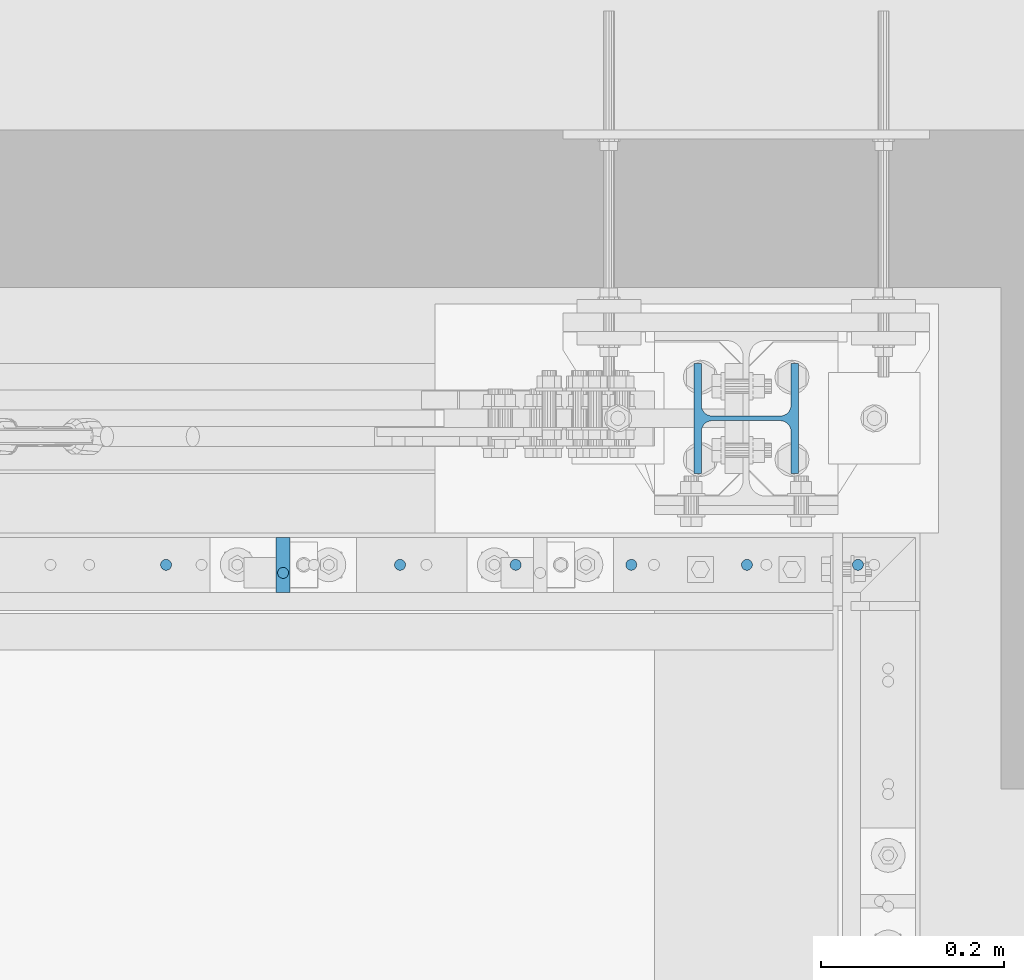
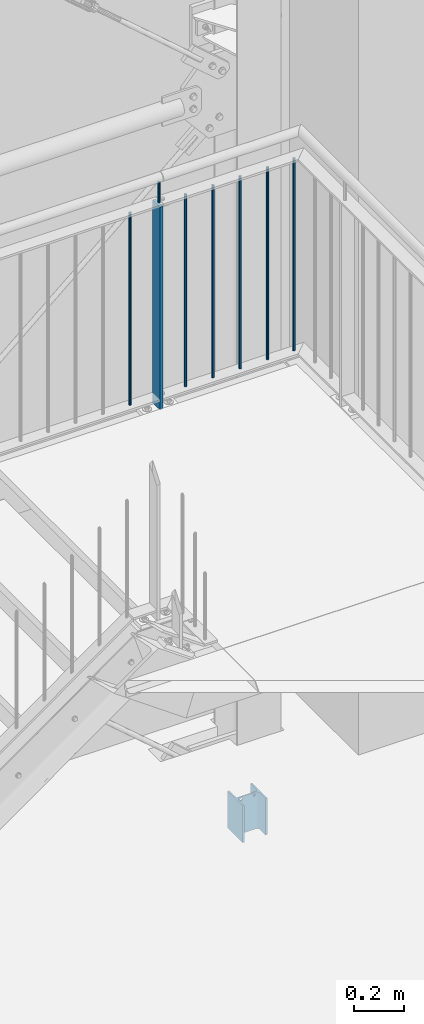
# One storey, part 108 of 821: 9 columns, 2 openings.
"""IFC2X3 building model written with IfcOpenShell, lengths in millimetres."""

from ifc_helpers import new_model, entity, si_unit, converted_unit, frame, origin, origin_with_axes, origin_2d, origin_2d_with_axis, place, context, project, spatial, rectangle, circle, i_section, extrude, clip, halfspace, material, element, save


model = new_model("IFC2X3")

# Units and contexts
model_context = context("Model", 3, precision=1e-09, world=origin_with_axes())
ifc_project = project(units=[si_unit("LENGTHUNIT", "METRE", prefix="MILLI"), si_unit("AREAUNIT", "SQUARE_METRE"), si_unit("VOLUMEUNIT", "CUBIC_METRE"), converted_unit("PLANEANGLEUNIT", "DEGREE", entity("IfcPlaneAngleMeasure", 0.01745329), si_unit("PLANEANGLEUNIT", "RADIAN"), dimensions=[0, 0, 0, 0, 0, 0, 0])], contexts=[model_context])

# Site, building, storey
site_placement = place(None, origin_with_axes())
site = spatial("IfcSite", under=ifc_project, at=site_placement, Name="Cnopf'sche Kinderklinik", CompositionType="ELEMENT")
building_placement = place(site_placement, origin_with_axes())
building = spatial("IfcBuilding", under=site, at=building_placement, Name="Struktur 1", CompositionType="ELEMENT")
storey_placement = place(building_placement, origin_with_axes())
storey = spatial("IfcBuildingStorey", under=building, at=storey_placement, Name="Default Storey", CompositionType="ELEMENT", Elevation=0.0)

# Column, openings
ifc_material = material(Name="S235JR")
column_1_placement = place(None, frame((8866.713402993, 7516.736971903, 30.0), z_axis=(0.0, 0.0, 1.0), x_axis=(0.0, 1.0, 0.0)))
column_1 = element("IfcColumn", 1, at=column_1_placement, inside=storey, material=ifc_material, Name="-", ObjectType="-", context=model_context, shape_type="SweptSolid", body=[
    extrude(i_section(OverallWidth=120.0, OverallDepth=114.0, WebThickness=5.0, FlangeThickness=8.0, FilletRadius=12.0, at=origin_2d()), origin(), (0.0, 0.0, -1.0), 180.0),
])
opening_1_placement = place(column_1_placement, frame((-3.0, 30.0, -12.0), z_axis=(1.0, 0.0, 0.0), x_axis=(0.0, 0.0, -1.0)))
element("IfcOpeningElement", 2, at=opening_1_placement, cuts=column_1, ObjectType="Opening", context=model_context, shape_type="SweptSolid", body=[
    extrude(circle(Radius=6.001, at=origin_2d_with_axis()), origin(), (0.0, 0.0, 1.0), 6.0),
])
opening_2_placement = place(column_1_placement, frame((-3.0, -30.0, -12.0), z_axis=(1.0, 0.0, 0.0), x_axis=(0.0, 0.0, -1.0)))
element("IfcOpeningElement", 3, at=opening_2_placement, cuts=column_1, ObjectType="Opening", context=model_context, shape_type="SweptSolid", body=[
    extrude(circle(Radius=6.001, at=origin_2d_with_axis()), origin(), (0.0, 0.0, 1.0), 6.0),
])

# Columns
column_2_placement = place(None, frame((8360.944225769, 7356.736971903, 3220.775923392), z_axis=(0.0, 0.0, 1.0), x_axis=(1.0, 0.0, 0.0)))
element("IfcColumn", 4, at=column_2_placement, inside=storey, material=ifc_material, Name="Railing_Post_Landing#3", ObjectType="Railing_Post_Landing#3", context=model_context, shape_type="Clipping", body=[
    clip(clip(extrude(rectangle(XDim=15.0, YDim=60.0, at=origin_2d()), origin(), (0.0, 0.0, -1.0), 1070.646584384), halfspace(frame((-8360.944225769, -7356.736971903, -1019.722292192), z_axis=(0.0, 0.0, 1.0), x_axis=(1.0, 0.0, 0.0)), True)), halfspace(frame((-8360.944225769, -7356.736971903, -30.924292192), z_axis=(0.0, 0.0, -1.0), x_axis=(-1.0, 0.0, 0.0)), True)),
])
column_3_placement = place(None, frame((8233.184225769, 7356.736971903, 3203.337912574), z_axis=(0.0, 0.0, 1.0), x_axis=(1.0, 0.0, 0.0)))
element("IfcColumn", 5, at=column_3_placement, inside=storey, material=ifc_material, Name="Railing_Picket_Landing#20", ObjectType="Railing_Picket_Landing#20", context=model_context, shape_type="Clipping", body=[
    clip(clip(extrude(circle(Radius=6.0, at=origin_2d()), origin(), (0.0, 0.0, -1.0), 965.770562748), halfspace(frame((-8233.184225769, -7356.736971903, -13.486281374), z_axis=(0.0, 0.0, -1.0), x_axis=(-1.0, 0.0, 0.0)), True)), halfspace(frame((-8233.184225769, -7356.736971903, -952.284281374), z_axis=(0.0, 0.0, 1.0), x_axis=(1.0, 0.0, 0.0)), True)),
])
column_4_placement = place(None, frame((8488.704225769, 7356.736971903, 3203.337912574), z_axis=(0.0, 0.0, 1.0), x_axis=(1.0, 0.0, 0.0)))
element("IfcColumn", 6, at=column_4_placement, inside=storey, material=ifc_material, Name="Railing_Picket_Landing#21", ObjectType="Railing_Picket_Landing#21", context=model_context, shape_type="Clipping", body=[
    clip(clip(extrude(circle(Radius=6.0, at=origin_2d()), origin(), (0.0, 0.0, -1.0), 965.770562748), halfspace(frame((-8488.704225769, -7356.736971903, -13.486281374), z_axis=(0.0, 0.0, -1.0), x_axis=(-1.0, 0.0, 0.0)), True)), halfspace(frame((-8488.704225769, -7356.736971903, -952.284281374), z_axis=(0.0, 0.0, 1.0), x_axis=(1.0, 0.0, 0.0)), True)),
])
column_5_placement = place(None, frame((8614.963745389, 7356.736971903, 3203.337912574), z_axis=(0.0, 0.0, 1.0), x_axis=(1.0, 0.0, 0.0)))
element("IfcColumn", 7, at=column_5_placement, inside=storey, material=ifc_material, Name="Railing_Picket_Landing#22", ObjectType="Railing_Picket_Landing#22", context=model_context, shape_type="Clipping", body=[
    clip(clip(extrude(circle(Radius=6.0, at=origin_2d()), origin(), (0.0, 0.0, -1.0), 965.770562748), halfspace(frame((-8614.963745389, -7356.736971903, -13.486281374), z_axis=(0.0, 0.0, -1.0), x_axis=(-1.0, 0.0, 0.0)), True)), halfspace(frame((-8614.963745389, -7356.736971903, -952.284281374), z_axis=(0.0, 0.0, 1.0), x_axis=(1.0, 0.0, 0.0)), True)),
])
column_6_placement = place(None, frame((8741.223265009, 7356.736971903, 3203.337912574), z_axis=(0.0, 0.0, 1.0), x_axis=(1.0, 0.0, 0.0)))
element("IfcColumn", 8, at=column_6_placement, inside=storey, material=ifc_material, Name="Railing_Picket_Landing#23", ObjectType="Railing_Picket_Landing#23", context=model_context, shape_type="Clipping", body=[
    clip(clip(extrude(circle(Radius=6.0, at=origin_2d()), origin(), (0.0, 0.0, -1.0), 965.770562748), halfspace(frame((-8741.223265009, -7356.736971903, -13.486281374), z_axis=(0.0, 0.0, -1.0), x_axis=(-1.0, 0.0, 0.0)), True)), halfspace(frame((-8741.223265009, -7356.736971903, -952.284281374), z_axis=(0.0, 0.0, 1.0), x_axis=(1.0, 0.0, 0.0)), True)),
])
column_7_placement = place(None, frame((8867.48278463, 7356.736971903, 3203.337912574), z_axis=(0.0, 0.0, 1.0), x_axis=(1.0, 0.0, 0.0)))
element("IfcColumn", 9, at=column_7_placement, inside=storey, material=ifc_material, Name="Railing_Picket_Landing#24", ObjectType="Railing_Picket_Landing#24", context=model_context, shape_type="Clipping", body=[
    clip(clip(extrude(circle(Radius=6.0, at=origin_2d()), origin(), (0.0, 0.0, -1.0), 965.770562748), halfspace(frame((-8867.48278463, -7356.736971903, -13.486281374), z_axis=(0.0, 0.0, -1.0), x_axis=(-1.0, 0.0, 0.0)), True)), halfspace(frame((-8867.48278463, -7356.736971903, -952.284281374), z_axis=(0.0, 0.0, 1.0), x_axis=(1.0, 0.0, 0.0)), True)),
])
column_8_placement = place(None, frame((8988.74230425, 7356.736971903, 3203.337912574), z_axis=(0.0, 0.0, 1.0), x_axis=(1.0, 0.0, 0.0)))
element("IfcColumn", 10, at=column_8_placement, inside=storey, material=ifc_material, Name="Railing_Picket_Landing#25", ObjectType="Railing_Picket_Landing#25", context=model_context, shape_type="Clipping", body=[
    clip(clip(extrude(circle(Radius=6.0, at=origin_2d()), origin(), (0.0, 0.0, -1.0), 965.770562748), halfspace(frame((-8988.74230425, -7356.736971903, -13.486281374), z_axis=(0.0, 0.0, -1.0), x_axis=(-1.0, 0.0, 0.0)), True)), halfspace(frame((-8988.74230425, -7356.736971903, -952.284281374), z_axis=(0.0, 0.0, 1.0), x_axis=(1.0, 0.0, 0.0)), True)),
])
column_9_placement = place(None, frame((8360.944225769, 7347.936971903, 3308.337912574), z_axis=(0.0, 0.0, 1.0), x_axis=(0.0, -1.0, 0.0)))
element("IfcColumn", 11, at=column_9_placement, inside=storey, material=ifc_material, Name="Bar#3", ObjectType="Bar#3", context=model_context, shape_type="Clipping", body=[
    clip(clip(extrude(circle(Radius=6.0, at=origin_2d()), origin(), (0.0, 0.0, -1.0), 116.970562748), halfspace(frame((7347.936971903, -8360.944225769, -8.486281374), z_axis=(0.0, 0.0, -1.0), x_axis=(0.0, -1.0, 0.0)), True)), halfspace(frame((7347.936971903, -8360.944225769, -108.484281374), z_axis=(0.0, 0.0, 1.0), x_axis=(0.0, 1.0, 0.0)), True)),
])

save(model, "model.ifc")
